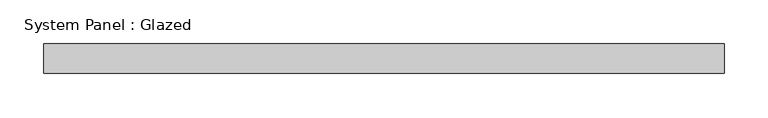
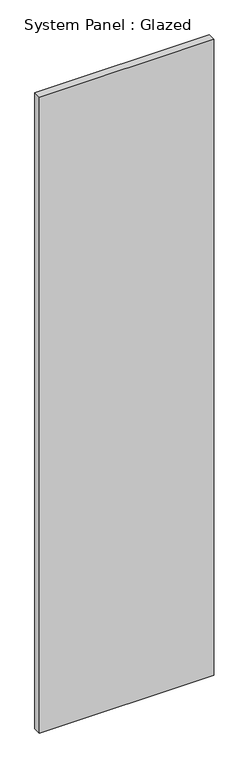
"""IFC4 building model written with IfcOpenShell, lengths in millimetres: plate geometry, System Panel : Glazed."""

from ifc_helpers import new_model, si_unit, origin, origin_with_axes, place, context, project, spatial, polyline, outline, extrude, source, transform, mapped, element, save


def system_panel_glazed_e2c861a8(model_context):
    return source(origin(), model_context, "Body", "SweptSolid", [
        extrude(outline(polyline([(388.9643968, -17.0), (-388.9643968, -17.0), (-388.9643968, 17.0), (388.9643968, 17.0), (388.9643968, -17.0)])), origin_with_axes(), (0.0, 0.0, 1.0), 3000.0),
    ])


if __name__ == "__main__":
    model = new_model("IFC4")
    model_context = context("Model", 3, world=origin())
    ifc_project = project(units=[si_unit("LENGTHUNIT", "METRE", prefix="MILLI")], contexts=[model_context])
    site = spatial("IfcSite", under=ifc_project)
    building = spatial("IfcBuilding", under=site)
    placement = place(None, origin())
    system_panel_glazed_shape = system_panel_glazed_e2c861a8(model_context)
    element("IfcPlate", 1, ObjectType="System Panel : Glazed", at=placement, inside=building, context=model_context, shape_type="MappedRepresentation", body=[
        mapped(system_panel_glazed_shape, transform((0.0, 0.0, 0.0), x_axis=(1.0, 0.0, 0.0), y_axis=(0.0, 1.0, 0.0), z_axis=(0.0, 0.0, 1.0))),
    ])
    save(model, "model.ifc")
